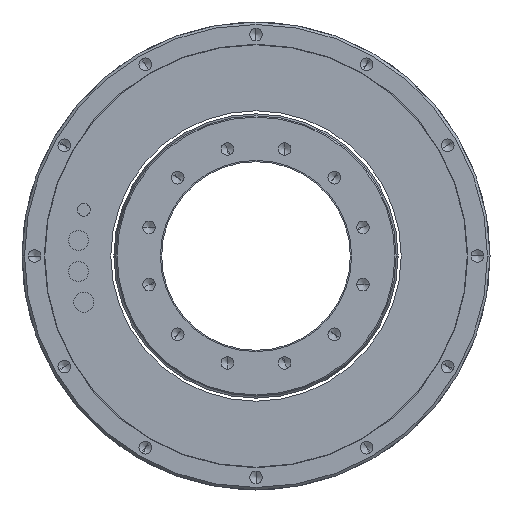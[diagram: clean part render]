
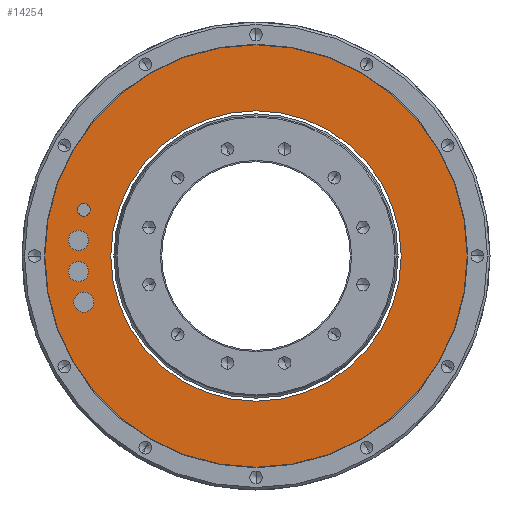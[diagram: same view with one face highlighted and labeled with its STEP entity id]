
A CAD part, left-side view. The second image highlights one B-rep face of the part: STEP entity #14254.
In plain terms, the highlighted planar face has unit normal (-1, 0, 0).
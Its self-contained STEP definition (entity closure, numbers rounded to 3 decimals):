
#13833=CARTESIAN_POINT('',(-170.,0.,0.));
#13834=DIRECTION('',(-1.,0.,0.));
#13835=DIRECTION('',(0.,1.,0.));
#13836=AXIS2_PLACEMENT_3D('',#13833,#13834,#13835);
#13838=CARTESIAN_POINT('',(-170.,0.,0.));
#13839=DIRECTION('',(1.,0.,0.));
#13840=DIRECTION('',(0.,1.,0.));
#13841=AXIS2_PLACEMENT_3D('',#13838,#13839,#13840);
#13843=CARTESIAN_POINT('',(-170.,0.,0.));
#13844=DIRECTION('',(-1.,0.,0.));
#13845=DIRECTION('',(0.,1.,0.));
#13846=AXIS2_PLACEMENT_3D('',#13843,#13844,#13845);
#13848=CARTESIAN_POINT('',(-170.,0.,0.));
#13849=DIRECTION('',(1.,0.,0.));
#13850=DIRECTION('',(0.,1.,0.));
#13851=AXIS2_PLACEMENT_3D('',#13848,#13849,#13850);
#13853=CARTESIAN_POINT('',(-170.,68.412,-18.331));
#13854=DIRECTION('',(-1.,0.,0.));
#13855=DIRECTION('',(0.,0.,1.));
#13856=AXIS2_PLACEMENT_3D('',#13853,#13854,#13855);
#13858=CARTESIAN_POINT('',(-170.,68.412,-18.331));
#13859=DIRECTION('',(-1.,0.,0.));
#13860=DIRECTION('',(0.,0.,-1.));
#13861=AXIS2_PLACEMENT_3D('',#13858,#13859,#13860);
#13863=CARTESIAN_POINT('',(-170.,68.412,18.331));
#13864=DIRECTION('',(-1.,0.,0.));
#13865=DIRECTION('',(0.,0.,1.));
#13866=AXIS2_PLACEMENT_3D('',#13863,#13864,#13865);
#13868=CARTESIAN_POINT('',(-170.,68.412,18.331));
#13869=DIRECTION('',(-1.,0.,0.));
#13870=DIRECTION('',(0.,0.,-1.));
#13871=AXIS2_PLACEMENT_3D('',#13868,#13869,#13870);
#13873=CARTESIAN_POINT('',(-170.,70.555,6.173));
#13874=DIRECTION('',(-1.,0.,0.));
#13875=DIRECTION('',(0.,0.,1.));
#13876=AXIS2_PLACEMENT_3D('',#13873,#13874,#13875);
#13878=CARTESIAN_POINT('',(-170.,70.555,6.173));
#13879=DIRECTION('',(-1.,0.,0.));
#13880=DIRECTION('',(0.,0.,-1.));
#13881=AXIS2_PLACEMENT_3D('',#13878,#13879,#13880);
#13883=CARTESIAN_POINT('',(-170.,70.555,-6.173));
#13884=DIRECTION('',(-1.,0.,0.));
#13885=DIRECTION('',(0.,0.,1.));
#13886=AXIS2_PLACEMENT_3D('',#13883,#13884,#13885);
#13888=CARTESIAN_POINT('',(-170.,70.555,-6.173));
#13889=DIRECTION('',(-1.,0.,0.));
#13890=DIRECTION('',(0.,0.,-1.));
#13891=AXIS2_PLACEMENT_3D('',#13888,#13889,#13890);
#14042=CARTESIAN_POINT('',(-170.,83.95,0.));
#14044=VERTEX_POINT('',#14042);
#14045=CARTESIAN_POINT('',(-170.,57.7,0.));
#14047=VERTEX_POINT('',#14045);
#14062=CARTESIAN_POINT('',(-170.,-83.95,0.));
#14064=VERTEX_POINT('',#14062);
#14065=CARTESIAN_POINT('',(-170.,-57.7,0.));
#14067=VERTEX_POINT('',#14065);
#14097=CARTESIAN_POINT('',(-170.,68.412,-14.331));
#14098=CARTESIAN_POINT('',(-170.,68.412,-22.331));
#14099=VERTEX_POINT('',#14097);
#14100=VERTEX_POINT('',#14098);
#14101=CARTESIAN_POINT('',(-170.,68.412,20.831));
#14102=CARTESIAN_POINT('',(-170.,68.412,15.831));
#14103=VERTEX_POINT('',#14101);
#14104=VERTEX_POINT('',#14102);
#14105=CARTESIAN_POINT('',(-170.,70.555,10.173));
#14106=CARTESIAN_POINT('',(-170.,70.555,2.173));
#14107=VERTEX_POINT('',#14105);
#14108=VERTEX_POINT('',#14106);
#14109=CARTESIAN_POINT('',(-170.,70.555,-2.173));
#14110=CARTESIAN_POINT('',(-170.,70.555,-10.173));
#14111=VERTEX_POINT('',#14109);
#14112=VERTEX_POINT('',#14110);
#14215=CARTESIAN_POINT('',(-170.,0.,0.));
#14216=DIRECTION('',(1.,0.,0.));
#14217=DIRECTION('',(0.,-1.,0.));
#14218=AXIS2_PLACEMENT_3D('',#14215,#14216,#14217);
#14219=PLANE('',#14218);
#14221=ORIENTED_EDGE('',*,*,#14220,.F.);
#14223=ORIENTED_EDGE('',*,*,#14222,.T.);
#14224=EDGE_LOOP('',(#14221,#14223));
#14225=FACE_OUTER_BOUND('',#14224,.F.);
#14226=ORIENTED_EDGE('',*,*,#14208,.F.);
#14227=ORIENTED_EDGE('',*,*,#14197,.T.);
#14228=EDGE_LOOP('',(#14226,#14227));
#14229=FACE_BOUND('',#14228,.F.);
#14231=ORIENTED_EDGE('',*,*,#14230,.T.);
#14233=ORIENTED_EDGE('',*,*,#14232,.T.);
#14234=EDGE_LOOP('',(#14231,#14233));
#14235=FACE_BOUND('',#14234,.F.);
#14237=ORIENTED_EDGE('',*,*,#14236,.T.);
#14239=ORIENTED_EDGE('',*,*,#14238,.T.);
#14240=EDGE_LOOP('',(#14237,#14239));
#14241=FACE_BOUND('',#14240,.F.);
#14243=ORIENTED_EDGE('',*,*,#14242,.T.);
#14245=ORIENTED_EDGE('',*,*,#14244,.T.);
#14246=EDGE_LOOP('',(#14243,#14245));
#14247=FACE_BOUND('',#14246,.F.);
#14249=ORIENTED_EDGE('',*,*,#14248,.T.);
#14251=ORIENTED_EDGE('',*,*,#14250,.T.);
#14252=EDGE_LOOP('',(#14249,#14251));
#14253=FACE_BOUND('',#14252,.F.);
#14254=ADVANCED_FACE('',(#14225,#14229,#14235,#14241,#14247,#14253),#14219,.F.);
#13837=CIRCLE('',#13836,57.7);
#13842=CIRCLE('',#13841,57.7);
#13847=CIRCLE('',#13846,83.95);
#13852=CIRCLE('',#13851,83.95);
#13857=CIRCLE('',#13856,4.);
#13862=CIRCLE('',#13861,4.);
#13867=CIRCLE('',#13866,2.5);
#13872=CIRCLE('',#13871,2.5);
#13877=CIRCLE('',#13876,4.);
#13882=CIRCLE('',#13881,4.);
#13887=CIRCLE('',#13886,4.);
#13892=CIRCLE('',#13891,4.);
#14197=EDGE_CURVE('',#14047,#14067,#13837,.T.);
#14208=EDGE_CURVE('',#14047,#14067,#13842,.T.);
#14220=EDGE_CURVE('',#14044,#14064,#13847,.T.);
#14222=EDGE_CURVE('',#14044,#14064,#13852,.T.);
#14230=EDGE_CURVE('',#14099,#14100,#13857,.T.);
#14232=EDGE_CURVE('',#14100,#14099,#13862,.T.);
#14236=EDGE_CURVE('',#14103,#14104,#13867,.T.);
#14238=EDGE_CURVE('',#14104,#14103,#13872,.T.);
#14242=EDGE_CURVE('',#14107,#14108,#13877,.T.);
#14244=EDGE_CURVE('',#14108,#14107,#13882,.T.);
#14248=EDGE_CURVE('',#14111,#14112,#13887,.T.);
#14250=EDGE_CURVE('',#14112,#14111,#13892,.T.);
